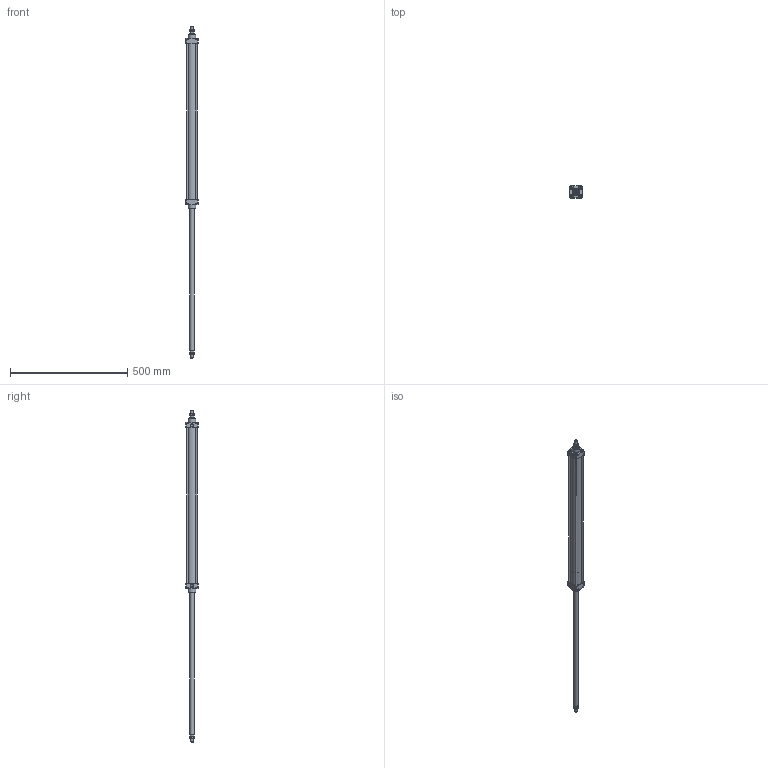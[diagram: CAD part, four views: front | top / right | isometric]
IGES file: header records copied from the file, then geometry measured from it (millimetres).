
Global section: file name: 130#_040_0600_02A; native system: Autodesk Inventor 2014; preprocessor: unknown; author: A. Manieri; date: 20161123.143820; units: millimetre
Bounding box: 52 x 52 x 1414 mm (x, y, z)
Volume: 831317.7 mm3; surface area: 348620.9 mm2
Topology: 10 solids, 10 shells, 187 faces, 467 edges, 314 vertices
Faces by surface type: bspline 187
